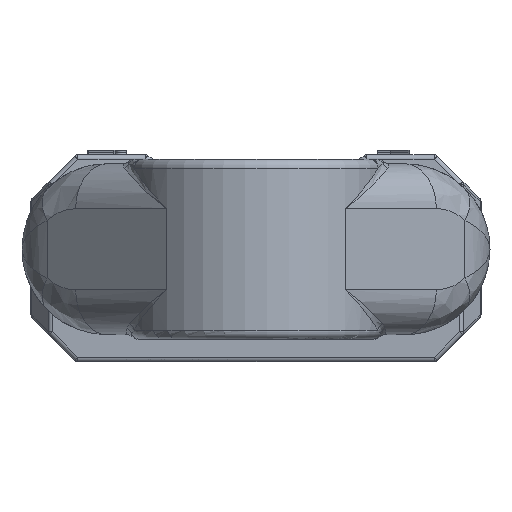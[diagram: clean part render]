
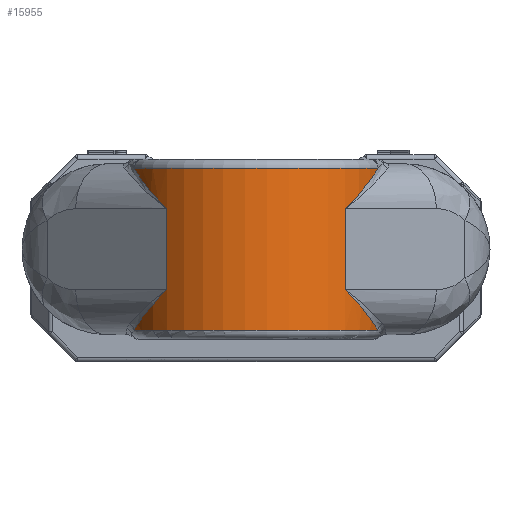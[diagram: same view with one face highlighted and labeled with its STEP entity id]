
A CAD part, front view. The second image highlights one B-rep face of the part: STEP entity #15955.
In plain terms, the highlighted cylindrical face has radius 14 mm (diameter 28 mm), a partial arc.
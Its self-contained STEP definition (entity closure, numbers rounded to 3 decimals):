
#252 = DIRECTION ( 'NONE',  ( 0., 0., -1. ) ) ;
#552 = CARTESIAN_POINT ( 'NONE',  ( 0., 26., 9. ) ) ;
#570 = CARTESIAN_POINT ( 'NONE',  ( -10.316, 35.469, -4.906 ) ) ;
#1015 = CARTESIAN_POINT ( 'NONE',  ( 10.415, 35.357, 5.007 ) ) ;
#1155 = CARTESIAN_POINT ( 'NONE',  ( -13.533, 29.584, 9. ) ) ;
#2172 = ORIENTED_EDGE ( 'NONE', *, *, #6698, .T. ) ;
#2452 = B_SPLINE_CURVE_WITH_KNOTS ( 'NONE', 3,
 ( #3686, #12081, #3408, #24833, #5855, #12359, #20556, #8160, #10242, #26999 ),
 .UNSPECIFIED., .F., .F.,
 ( 4, 2, 2, 2, 4 ),
 ( 0., 0.002, 0.004, 0.006, 0.009 ),
 .UNSPECIFIED. ) ;
#2575 = DIRECTION ( 'NONE',  ( 0., 0., -1. ) ) ;
#3129 = CARTESIAN_POINT ( 'NONE',  ( 10.004, 35.795, 4.6 ) ) ;
#3350 = CARTESIAN_POINT ( 'NONE',  ( -10.902, 34.789, 5.511 ) ) ;
#3408 = CARTESIAN_POINT ( 'NONE',  ( 10.721, 35.024, -5.313 ) ) ;
#3409 = CARTESIAN_POINT ( 'NONE',  ( 13.365, 30.218, 8.689 ) ) ;
#3686 = CARTESIAN_POINT ( 'NONE',  ( 9.899, 35.899, -4.5 ) ) ;
#4002 = ORIENTED_EDGE ( 'NONE', *, *, #25869, .T. ) ;
#4096 = LINE ( 'NONE', #8284, #12581 ) ;
#4209 = VECTOR ( 'NONE', #252, 1000. ) ;
#4300 = DIRECTION ( 'NONE',  ( 0., 0., -1. ) ) ;
#4474 = CARTESIAN_POINT ( 'NONE',  ( -9.899, 35.899, -4.5 ) ) ;
#4690 = DIRECTION ( 'NONE',  ( 1., 0., 0. ) ) ;
#4765 = B_SPLINE_CURVE_WITH_KNOTS ( 'NONE', 3,
 ( #18924, #6539, #21098, #25308, #12824, #25472, #19376, #19186, #23681, #570, #13279, #15376 ),
 .UNSPECIFIED., .F., .F.,
 ( 4, 2, 2, 2, 2, 4 ),
 ( 0.006, 0.008, 0.01, 0.012, 0.013, 0.014 ),
 .UNSPECIFIED. ) ;
#4829 = CARTESIAN_POINT ( 'NONE',  ( -10.111, 35.688, 4.702 ) ) ;
#5007 = EDGE_CURVE ( 'NONE', #24255, #23779, #2452, .T. ) ;
#5024 = ORIENTED_EDGE ( 'NONE', *, *, #17374, .T. ) ;
#5087 = CARTESIAN_POINT ( 'NONE',  ( -10.711, 35.02, 5.309 ) ) ;
#5219 = CARTESIAN_POINT ( 'NONE',  ( 12.405, 32.518, 7.274 ) ) ;
#5855 = CARTESIAN_POINT ( 'NONE',  ( 11.79, 33.573, -6.506 ) ) ;
#6539 = CARTESIAN_POINT ( 'NONE',  ( -13.367, 30.213, -8.691 ) ) ;
#6698 = EDGE_CURVE ( 'NONE', #22320, #26385, #25904, .T. ) ;
#7382 = CARTESIAN_POINT ( 'NONE',  ( -11.452, 34.075, 6.111 ) ) ;
#8160 = CARTESIAN_POINT ( 'NONE',  ( 13.158, 30.824, -8.35 ) ) ;
#8284 = CARTESIAN_POINT ( 'NONE',  ( 9.899, 35.899, 91.982 ) ) ;
#9029 = EDGE_CURVE ( 'NONE', #23779, #13784, #18023, .T. ) ;
#9425 = CARTESIAN_POINT ( 'NONE',  ( 10.711, 35.02, 5.309 ) ) ;
#9617 = CARTESIAN_POINT ( 'NONE',  ( 12.679, 31.969, 7.645 ) ) ;
#9664 = CYLINDRICAL_SURFACE ( 'NONE', #12702, 14. ) ;
#9757 = LINE ( 'NONE', #23257, #4209 ) ;
#10242 = CARTESIAN_POINT ( 'NONE',  ( 13.367, 30.213, -8.691 ) ) ;
#11531 = CARTESIAN_POINT ( 'NONE',  ( 9.899, 35.899, 4.5 ) ) ;
#11659 = CARTESIAN_POINT ( 'NONE',  ( -11.792, 33.571, 6.508 ) ) ;
#11712 = CARTESIAN_POINT ( 'NONE',  ( 11.452, 34.075, 6.11 ) ) ;
#12081 = CARTESIAN_POINT ( 'NONE',  ( 10.323, 35.476, -4.906 ) ) ;
#12284 = ORIENTED_EDGE ( 'NONE', *, *, #9029, .T. ) ;
#12359 = CARTESIAN_POINT ( 'NONE',  ( 12.401, 32.526, -7.268 ) ) ;
#12581 = VECTOR ( 'NONE', #14828, 1000. ) ;
#12612 = CARTESIAN_POINT ( 'NONE',  ( 0., 26., 91.982 ) ) ;
#12702 = AXIS2_PLACEMENT_3D ( 'NONE', #12612, #4300, #16560 ) ;
#12824 = CARTESIAN_POINT ( 'NONE',  ( -12.4, 32.526, -7.268 ) ) ;
#12896 = VERTEX_POINT ( 'NONE', #4474 ) ;
#13279 = CARTESIAN_POINT ( 'NONE',  ( -10.11, 35.689, -4.702 ) ) ;
#13747 = CARTESIAN_POINT ( 'NONE',  ( -13.159, 30.819, 8.352 ) ) ;
#13784 = VERTEX_POINT ( 'NONE', #23676 ) ;
#13803 = CARTESIAN_POINT ( 'NONE',  ( 13.533, 29.584, 9. ) ) ;
#13833 = ORIENTED_EDGE ( 'NONE', *, *, #24012, .T. ) ;
#14828 = DIRECTION ( 'NONE',  ( 0., 0., -1. ) ) ;
#14885 = FACE_OUTER_BOUND ( 'NONE', #20598, .T. ) ;
#15376 = CARTESIAN_POINT ( 'NONE',  ( -9.899, 35.899, -4.5 ) ) ;
#15628 = CARTESIAN_POINT ( 'NONE',  ( 10.109, 35.686, 4.703 ) ) ;
#15749 = VERTEX_POINT ( 'NONE', #25810 ) ;
#15764 = CARTESIAN_POINT ( 'NONE',  ( -13.365, 30.218, 8.689 ) ) ;
#15955 = ADVANCED_FACE ( 'NONE', ( #14885 ), #9664, .T. ) ;
#16083 = VERTEX_POINT ( 'NONE', #21605 ) ;
#16560 = DIRECTION ( 'NONE',  ( -1., 0., 0. ) ) ;
#17374 = EDGE_CURVE ( 'NONE', #16083, #22320, #19152, .T. ) ;
#17876 = CARTESIAN_POINT ( 'NONE',  ( 13.533, 29.584, -9. ) ) ;
#18023 = CIRCLE ( 'NONE', #25309, 14. ) ;
#18924 = CARTESIAN_POINT ( 'NONE',  ( -13.533, 29.584, -9. ) ) ;
#19152 = B_SPLINE_CURVE_WITH_KNOTS ( 'NONE', 3,
 ( #25852, #4829, #19770, #5087, #3350, #7382, #11659, #24231, #19850, #13747, #15764, #1155 ),
 .UNSPECIFIED., .F., .F.,
 ( 4, 2, 2, 2, 2, 4 ),
 ( 0., 0.001, 0.002, 0.004, 0.006, 0.009 ),
 .UNSPECIFIED. ) ;
#19168 = CARTESIAN_POINT ( 'NONE',  ( 0., 26., -9. ) ) ;
#19186 = CARTESIAN_POINT ( 'NONE',  ( -10.904, 34.786, -5.513 ) ) ;
#19376 = CARTESIAN_POINT ( 'NONE',  ( -11.454, 34.072, -6.113 ) ) ;
#19770 = CARTESIAN_POINT ( 'NONE',  ( -10.316, 35.469, 4.906 ) ) ;
#19850 = CARTESIAN_POINT ( 'NONE',  ( -12.679, 31.969, 7.645 ) ) ;
#19916 = ORIENTED_EDGE ( 'NONE', *, *, #21266, .T. ) ;
#20107 = CARTESIAN_POINT ( 'NONE',  ( 10.902, 34.789, 5.51 ) ) ;
#20556 = CARTESIAN_POINT ( 'NONE',  ( 12.675, 31.978, -7.639 ) ) ;
#20593 = CARTESIAN_POINT ( 'NONE',  ( 13.533, 29.584, 9. ) ) ;
#20598 = EDGE_LOOP ( 'NONE', ( #2172, #19916, #4002, #24650, #12284, #13833, #24601, #5024 ) ) ;
#20793 = CARTESIAN_POINT ( 'NONE',  ( 9.899, 35.899, -4.5 ) ) ;
#20989 = DIRECTION ( 'NONE',  ( 0., 0., 1. ) ) ;
#21098 = CARTESIAN_POINT ( 'NONE',  ( -13.158, 30.824, -8.35 ) ) ;
#21266 = EDGE_CURVE ( 'NONE', #26385, #15749, #22147, .T. ) ;
#21605 = CARTESIAN_POINT ( 'NONE',  ( -9.899, 35.899, 4.5 ) ) ;
#21819 = CARTESIAN_POINT ( 'NONE',  ( 11.792, 33.571, 6.508 ) ) ;
#22147 = B_SPLINE_CURVE_WITH_KNOTS ( 'NONE', 3,
 ( #13803, #3409, #24016, #9617, #5219, #21819, #11712, #20107, #9425, #1015, #26078, #15628, #3129, #11531 ),
 .UNSPECIFIED., .F., .F.,
 ( 4, 2, 2, 2, 2, 2, 4 ),
 ( 0., 0.002, 0.004, 0.006, 0.008, 0.008, 0.009 ),
 .UNSPECIFIED. ) ;
#22320 = VERTEX_POINT ( 'NONE', #26910 ) ;
#22501 = EDGE_CURVE ( 'NONE', #16083, #12896, #9757, .T. ) ;
#23257 = CARTESIAN_POINT ( 'NONE',  ( -9.899, 35.899, 91.982 ) ) ;
#23676 = CARTESIAN_POINT ( 'NONE',  ( -13.533, 29.584, -9. ) ) ;
#23681 = CARTESIAN_POINT ( 'NONE',  ( -10.713, 35.018, -5.311 ) ) ;
#23779 = VERTEX_POINT ( 'NONE', #17876 ) ;
#23880 = AXIS2_PLACEMENT_3D ( 'NONE', #552, #2575, #4690 ) ;
#24012 = EDGE_CURVE ( 'NONE', #13784, #12896, #4765, .T. ) ;
#24016 = CARTESIAN_POINT ( 'NONE',  ( 13.159, 30.819, 8.352 ) ) ;
#24231 = CARTESIAN_POINT ( 'NONE',  ( -12.405, 32.518, 7.274 ) ) ;
#24255 = VERTEX_POINT ( 'NONE', #20793 ) ;
#24601 = ORIENTED_EDGE ( 'NONE', *, *, #22501, .F. ) ;
#24650 = ORIENTED_EDGE ( 'NONE', *, *, #5007, .T. ) ;
#24833 = CARTESIAN_POINT ( 'NONE',  ( 11.455, 34.072, -6.113 ) ) ;
#25198 = DIRECTION ( 'NONE',  ( 1., 0., 0. ) ) ;
#25308 = CARTESIAN_POINT ( 'NONE',  ( -12.675, 31.978, -7.639 ) ) ;
#25309 = AXIS2_PLACEMENT_3D ( 'NONE', #19168, #20989, #25198 ) ;
#25472 = CARTESIAN_POINT ( 'NONE',  ( -11.79, 33.573, -6.505 ) ) ;
#25810 = CARTESIAN_POINT ( 'NONE',  ( 9.899, 35.899, 4.5 ) ) ;
#25852 = CARTESIAN_POINT ( 'NONE',  ( -9.899, 35.899, 4.5 ) ) ;
#25869 = EDGE_CURVE ( 'NONE', #15749, #24255, #4096, .T. ) ;
#25904 = CIRCLE ( 'NONE', #23880, 14. ) ;
#26078 = CARTESIAN_POINT ( 'NONE',  ( 10.314, 35.468, 4.905 ) ) ;
#26385 = VERTEX_POINT ( 'NONE', #20593 ) ;
#26910 = CARTESIAN_POINT ( 'NONE',  ( -13.533, 29.584, 9. ) ) ;
#26999 = CARTESIAN_POINT ( 'NONE',  ( 13.533, 29.584, -9. ) ) ;
